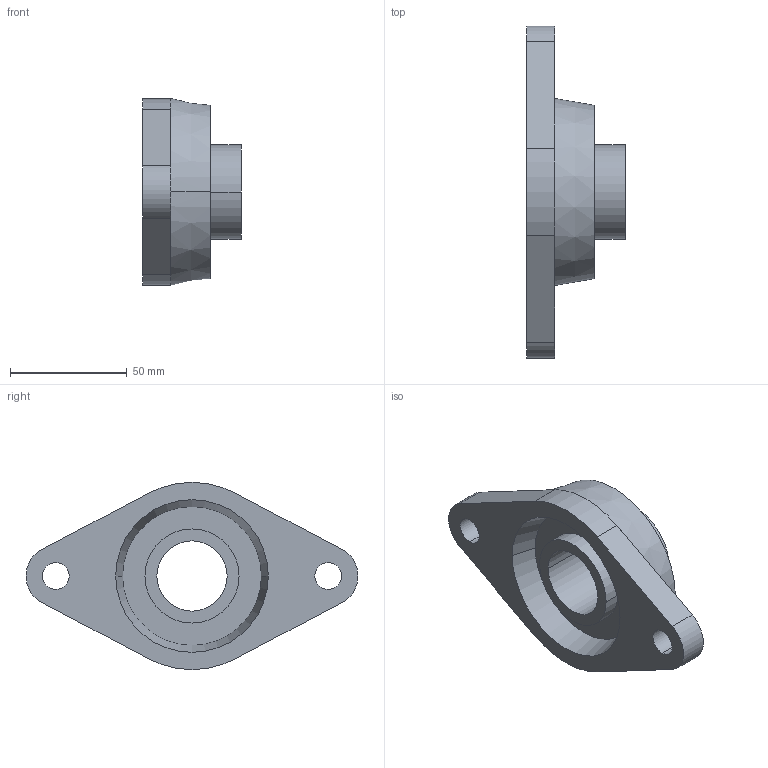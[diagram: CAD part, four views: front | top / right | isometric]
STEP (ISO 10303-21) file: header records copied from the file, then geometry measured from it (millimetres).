
FILE_DESCRIPTION(('SolidDesigner STEP Export'),'2;1');
FILE_NAME('Flanschlager_RCJTY_30.stp','2002-07-16T11:34:21',(''),(''),'SolidDesigner STEP processor Version: 9.0 (March 2001)for AP214(CD)(Solid Model)','CoCreate SolidDesigner: 11.00 12-Dec-2001(C) CoCreate Software GmbH','');
FILE_SCHEMA(('AUTOMOTIVE_DESIGN_CC2 {1 2 10303 214 -1 1 5 1}'));
Length unit declared in the file: millimetre
Products named in the file (1): Flanschlager_RCJTY_30
Bounding box: 42.2 x 141.91 x 80 mm (x, y, z)
Volume: 129863.1 mm3; surface area: 29022 mm2
Topology: 1 solids, 1 shells, 29 faces, 68 edges, 44 vertices
Faces by surface type: cylinder 14, plane 11, cone 4
Entity records: 762 total; most frequent: ORIENTED_EDGE 136, CARTESIAN_POINT 118, DIRECTION 118, EDGE_CURVE 68, AXIS2_PLACEMENT_3D 44, VERTEX_POINT 44, EDGE_LOOP 38, VECTOR 30
